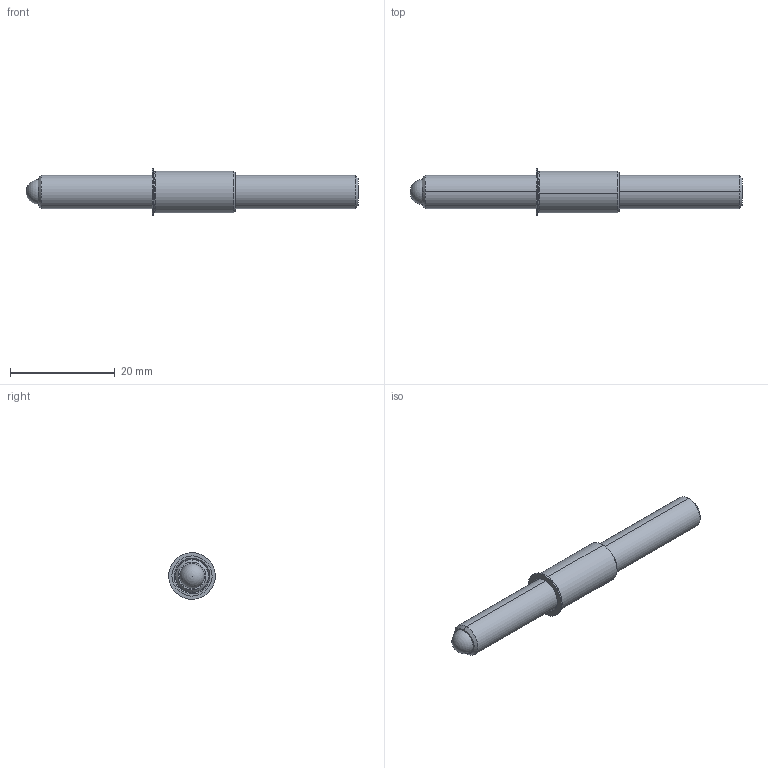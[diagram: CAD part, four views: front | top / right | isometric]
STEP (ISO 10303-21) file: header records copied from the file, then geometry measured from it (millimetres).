
FILE_DESCRIPTION (( 'STEP AP214' ), '1' );
FILE_NAME ('TSB250-80-2500_625-AA.STEP', '2013-03-14T13:01:57', ( 'workpc' ), ( 'Microsoft' ), 'SwSTEP 2.0', 'SolidWorks 2013', '' );
FILE_SCHEMA (( 'AUTOMOTIVE_DESIGN' ));
Length unit declared in the file: inch
Products named in the file (1): TSB250-80-2500_625-AA
Bounding box: 63.5 x 8.93 x 8.93 mm (x, y, z)
Surface area: 1799.4 mm2 (no closed solid volume)
Topology: 0 solids, 3 shells, 33 faces, 77 edges, 49 vertices
Faces by surface type: cone 12, plane 11, cylinder 8, sphere 2
Entity records: 1358 total; most frequent: DIRECTION 174, CARTESIAN_POINT 152, ORIENTED_EDGE 132, EDGE_CURVE 72, AXIS2_PLACEMENT_3D 68, VERTEX_POINT 46, LINE 38, EDGE_LOOP 38
